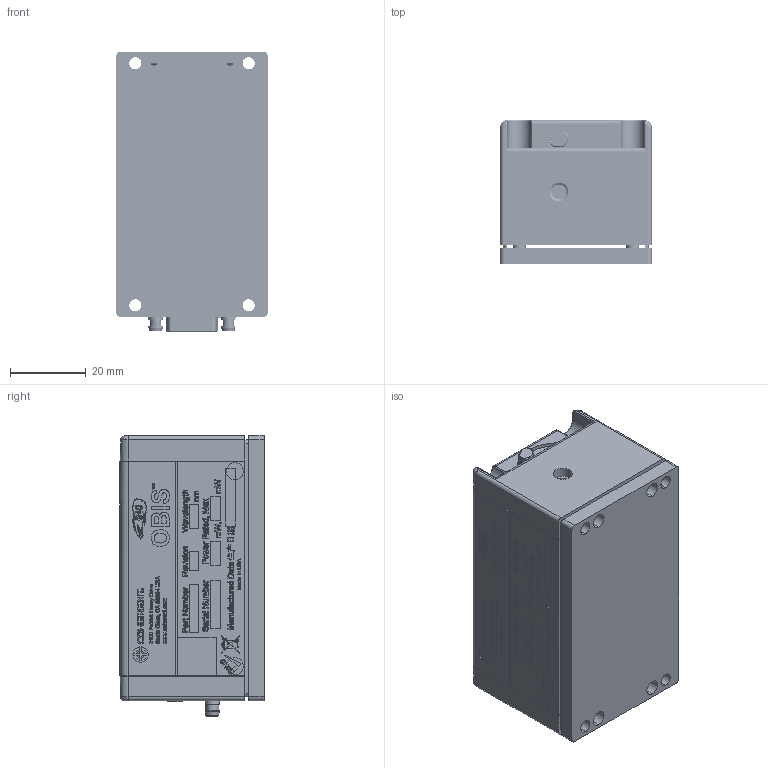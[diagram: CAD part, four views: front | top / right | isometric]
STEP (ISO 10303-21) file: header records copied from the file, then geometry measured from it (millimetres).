
FILE_DESCRIPTION (( 'STEP AP214' ), '1' );
FILE_NAME ('OBIS Laser.STEP', '2012-01-18T19:29:02', ( 'coherent' ), ( '' ), 'SwSTEP 2.0', 'SolidWorks 2012', '' );
FILE_SCHEMA (( 'AUTOMOTIVE_DESIGN' ));
Length unit declared in the file: inch
Products named in the file (1): OBIS Laser
Bounding box: 40.3 x 38.17 x 74.06 mm (x, y, z)
Surface area: 20958.9 mm2 (no closed solid volume)
Topology: 0 solids, 208 shells, 2898 faces, 20922 edges, 17663 vertices
Faces by surface type: plane 1906, bspline 726, cylinder 230, torus 18, cone 18
Entity records: 318237 total; most frequent: CARTESIAN_POINT 148257, ORIENTED_EDGE 25631, EDGE_CURVE 20922, DIRECTION 18312, VERTEX_POINT 17663, LINE 12236, VECTOR 12236, B_SPLINE_CURVE_WITH_KNOTS 7815
